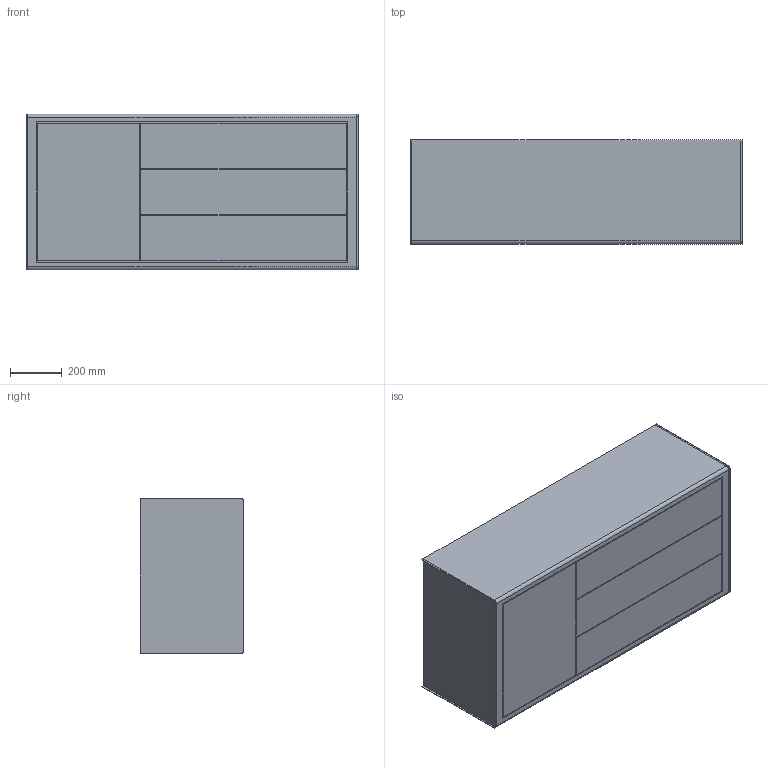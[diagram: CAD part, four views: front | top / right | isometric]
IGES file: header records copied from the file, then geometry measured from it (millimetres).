
Start section: Comment
Global section: file name: S36-H3-128-01.igs; native system:  By UGS Corp.; preprocessor: XPlus GENERIC/IGES 3.0; author: Author; organization: Title; date: 20141218.103122; units: inch
Bounding box: 1280 x 400 x 600 mm (x, y, z)
Surface area: 7218038.5 mm2 (no closed solid volume)
Topology: 0 solids, 0 shells, 45 faces, 228 edges, 228 vertices
Faces by surface type: bspline 45
